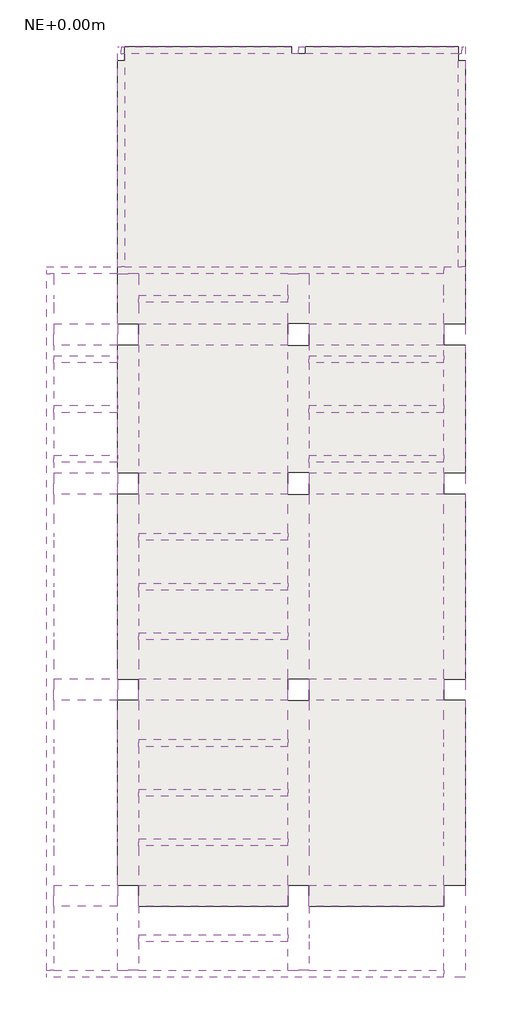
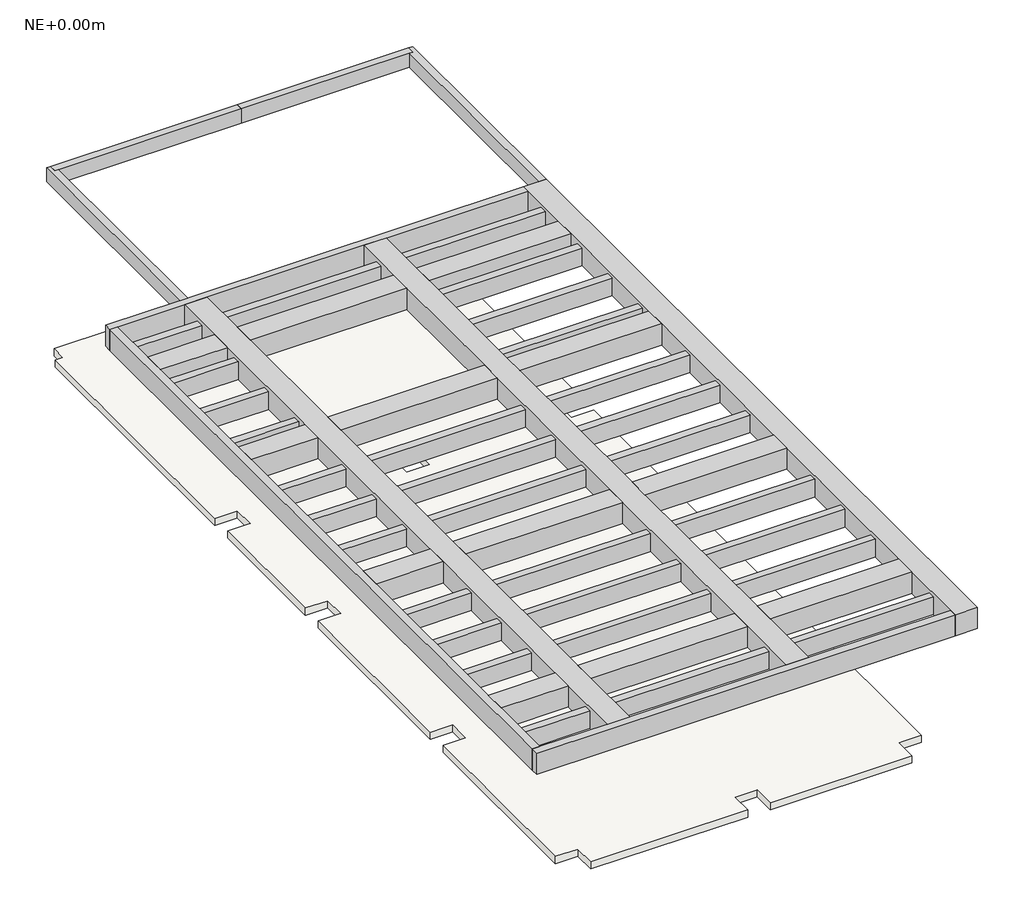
# One storey: 36 beams, 1 slab.
"""IFC4 building model written with IfcOpenShell, lengths in millimetres."""

from ifc_helpers import new_model, si_unit, frame, origin, place, context, project, spatial, polyline, outline, extrude, faceted_brep, element, save

model = new_model("IFC4")

# Units and contexts
model_context = context("Model", 3, world=origin())
ifc_project = project(units=[si_unit("LENGTHUNIT", "METRE", prefix="MILLI")], contexts=[model_context])

# Site, building, storey
site = spatial("IfcSite", under=ifc_project)
building = spatial("IfcBuilding", under=site)
storey = spatial("IfcBuildingStorey", under=building, Name="NE+0.00m", Elevation=0.0)

# Beams
placement = place(None, origin())
element("IfcBeam", 1, ObjectType="Hormigón-Viga rectangular : VConf (0.10x0.20m)", at=placement, inside=storey, context=model_context, shape_type="SweptSolid", body=[
    extrude(outline(polyline([(-947.6811082, 1862.8132138), (-1047.6811082, 1862.8132138), (-1047.6811082, 4962.8132138), (-997.6811082, 4962.8132138), (-997.6811082, 4862.8132138), (-947.6811082, 4862.8132138), (-947.6811082, 1862.8132138)])), frame((0.0, 0.0, 2400.0), z_axis=(0.0, 0.0, 1.0), x_axis=(1.0, 0.0, 0.0)), (0.0, 0.0, 1.0), 200.0),
])
element("IfcBeam", 2, ObjectType="Hormigón-Viga rectangular : VConf (0.10x0.20m)", at=placement, inside=storey, context=model_context, shape_type="SweptSolid", body=[
    extrude(outline(polyline([(3852.3188918, 1862.8132138), (3752.3188918, 1862.8132138), (3752.3188918, 4862.8132138), (3802.3188918, 4862.8132138), (3802.3188918, 4962.8132138), (3852.3188918, 4962.8132138), (3852.3188918, 1862.8132138)])), frame((0.0, 0.0, 2400.0), z_axis=(0.0, 0.0, 1.0), x_axis=(1.0, 0.0, 0.0)), (0.0, 0.0, 1.0), 200.0),
])
element("IfcBeam", 3, ObjectType="Hormigón-Viga rectangular : VConf (0.10x0.20m)", at=placement, inside=storey, context=model_context, shape_type="Brep", body=[
    faceted_brep([(3802.3188918, 4862.8132138, 2600.0), (3802.3188918, 4962.8132138, 2600.0), (1502.3188918, 4962.8132138, 2600.0), (1502.3188918, 4862.8132138, 2600.0), (3752.3188918, 4862.8132138, 2600.0), (3802.3188918, 4862.8132138, 2400.0), (1502.3188918, 4862.8132138, 2400.0), (3752.3188918, 4862.8132138, 2400.0), (3802.3188918, 4962.8132138, 2400.0), (1502.3188918, 4962.8132138, 2400.0)], [[[0, 1, 2, 3, 4]], [[5, 0, 4, 3, 6, 7]], [[8, 5, 7, 6, 9]], [[1, 8, 9, 2]], [[1, 0, 5, 8]], [[2, 9, 6, 3]]]),
])
element("IfcBeam", 4, ObjectType="Hormigón-Viga rectangular : VConf (0.10x0.20m)", at=placement, inside=storey, context=model_context, shape_type="Brep", body=[
    faceted_brep([(-997.6811082, 4962.8132138, 2600.0), (-997.6811082, 4862.8132138, 2600.0), (-947.6811082, 4862.8132138, 2600.0), (1502.3188918, 4862.8132138, 2600.0), (1502.3188918, 4962.8132138, 2600.0), (-997.6811082, 4962.8132138, 2400.0), (1502.3188918, 4962.8132138, 2400.0), (-997.6811082, 4862.8132138, 2400.0), (1502.3188918, 4862.8132138, 2400.0), (-947.6811082, 4862.8132138, 2400.0)], [[[0, 1, 2, 3, 4]], [[5, 0, 4, 6]], [[7, 5, 6, 8, 9]], [[1, 7, 9, 8, 3, 2]], [[1, 0, 5, 7]], [[3, 8, 6, 4]]]),
])
element("IfcBeam", 5, ObjectType="Hormigón-Viga rectangular : VA (0.30x0.30m)", at=placement, inside=storey, context=model_context, shape_type="Brep", body=[
    faceted_brep([(3552.3188918, -7137.1867862, 2600.0), (3552.3188918, -6837.1867862, 2600.0), (1652.3188918, -6837.1867862, 2600.0), (1652.3188918, -7137.1867862, 2600.0), (3552.3188918, -6837.1867862, 2550.0), (3552.3188918, -6837.1867862, 2300.0), (1652.3188918, -6837.1867862, 2300.0), (1652.3188918, -6837.1867862, 2550.0), (3552.3188918, -7137.1867862, 2300.0), (1652.3188918, -7137.1867862, 2300.0), (1652.3188918, -7137.1867862, 2550.0), (3552.3188918, -7137.1867862, 2550.0)], [[[0, 1, 2, 3]], [[2, 1, 4, 5, 6, 7]], [[5, 8, 9, 6]], [[0, 3, 10, 9, 8, 11]], [[1, 0, 11, 8, 5, 4]], [[3, 2, 7, 6, 9, 10]]]),
])
element("IfcBeam", 6, ObjectType="Hormigón-Viga rectangular : VA (0.30x0.30m)", at=placement, inside=storey, context=model_context, shape_type="Brep", body=[
    faceted_brep([(1352.3188918, -7137.1867862, 2600.0), (1352.3188918, -6837.1867862, 2600.0), (-747.6811082, -6837.1867862, 2600.0), (-747.6811082, -7137.1867862, 2600.0), (1352.3188918, -6837.1867862, 2550.0), (1352.3188918, -6837.1867862, 2300.0), (-747.6811082, -6837.1867862, 2300.0), (-747.6811082, -6837.1867862, 2550.0), (1352.3188918, -7137.1867862, 2300.0), (-747.6811082, -7137.1867862, 2300.0), (-747.6811082, -7137.1867862, 2550.0), (1352.3188918, -7137.1867862, 2550.0)], [[[0, 1, 2, 3]], [[2, 1, 4, 5, 6, 7]], [[5, 8, 9, 6]], [[0, 3, 10, 9, 8, 11]], [[1, 0, 11, 8, 5, 4]], [[3, 2, 7, 6, 9, 10]]]),
])
element("IfcBeam", 7, ObjectType="Hormigón-Viga rectangular : VA (0.30x0.30m)", at=placement, inside=storey, context=model_context, shape_type="Brep", body=[
    faceted_brep([(-1047.6811082, -7137.1867862, 2600.0), (-1047.6811082, -6837.1867862, 2600.0), (-1947.6811082, -6837.1867862, 2600.0), (-1947.6811082, -7137.1867862, 2600.0), (-1047.6811082, -6837.1867862, 2550.0), (-1047.6811082, -6837.1867862, 2300.0), (-1947.6811082, -6837.1867862, 2300.0), (-1947.6811082, -6837.1867862, 2550.0), (-1047.6811082, -7137.1867862, 2300.0), (-1947.6811082, -7137.1867862, 2300.0), (-1947.6811082, -7137.1867862, 2550.0), (-1047.6811082, -7137.1867862, 2550.0)], [[[0, 1, 2, 3]], [[2, 1, 4, 5, 6, 7]], [[5, 8, 9, 6]], [[0, 3, 10, 9, 8, 11]], [[1, 0, 11, 8, 5, 4]], [[3, 2, 7, 6, 9, 10]]]),
])
element("IfcBeam", 8, ObjectType="Hormigón-Viga rectangular : VA (0.30x0.30m)", at=placement, inside=storey, context=model_context, shape_type="Brep", body=[
    faceted_brep([(3552.3188918, -4237.1867862, 2600.0), (3552.3188918, -3937.1867862, 2600.0), (1652.3188918, -3937.1867862, 2600.0), (1652.3188918, -4237.1867862, 2600.0), (3552.3188918, -3937.1867862, 2550.0), (3552.3188918, -3937.1867862, 2300.0), (1652.3188918, -3937.1867862, 2300.0), (1652.3188918, -3937.1867862, 2550.0), (3552.3188918, -4237.1867862, 2300.0), (1652.3188918, -4237.1867862, 2300.0), (1652.3188918, -4237.1867862, 2550.0), (3552.3188918, -4237.1867862, 2550.0)], [[[0, 1, 2, 3]], [[2, 1, 4, 5, 6, 7]], [[5, 8, 9, 6]], [[0, 3, 10, 9, 8, 11]], [[1, 0, 11, 8, 5, 4]], [[3, 2, 7, 6, 9, 10]]]),
])
element("IfcBeam", 9, ObjectType="Hormigón-Viga rectangular : VA (0.30x0.30m)", at=placement, inside=storey, context=model_context, shape_type="Brep", body=[
    faceted_brep([(1352.3188918, -4237.1867862, 2600.0), (1352.3188918, -3937.1867862, 2600.0), (-747.6811082, -3937.1867862, 2600.0), (-747.6811082, -4237.1867862, 2600.0), (1352.3188918, -3937.1867862, 2550.0), (1352.3188918, -3937.1867862, 2300.0), (-747.6811082, -3937.1867862, 2300.0), (-747.6811082, -3937.1867862, 2550.0), (1352.3188918, -4237.1867862, 2300.0), (-747.6811082, -4237.1867862, 2300.0), (-747.6811082, -4237.1867862, 2550.0), (1352.3188918, -4237.1867862, 2550.0)], [[[0, 1, 2, 3]], [[2, 1, 4, 5, 6, 7]], [[5, 8, 9, 6]], [[0, 3, 10, 9, 8, 11]], [[1, 0, 11, 8, 5, 4]], [[3, 2, 7, 6, 9, 10]]]),
])
element("IfcBeam", 10, ObjectType="Hormigón-Viga rectangular : VA (0.30x0.30m)", at=placement, inside=storey, context=model_context, shape_type="Brep", body=[
    faceted_brep([(-1047.6811082, -4237.1867862, 2600.0), (-1047.6811082, -3937.1867862, 2600.0), (-1947.6811082, -3937.1867862, 2600.0), (-1947.6811082, -4237.1867862, 2600.0), (-1047.6811082, -3937.1867862, 2550.0), (-1047.6811082, -3937.1867862, 2300.0), (-1947.6811082, -3937.1867862, 2300.0), (-1947.6811082, -3937.1867862, 2550.0), (-1047.6811082, -4237.1867862, 2300.0), (-1947.6811082, -4237.1867862, 2300.0), (-1947.6811082, -4237.1867862, 2550.0), (-1047.6811082, -4237.1867862, 2550.0)], [[[0, 1, 2, 3]], [[2, 1, 4, 5, 6, 7]], [[5, 8, 9, 6]], [[0, 3, 10, 9, 8, 11]], [[1, 0, 11, 8, 5, 4]], [[3, 2, 7, 6, 9, 10]]]),
])
element("IfcBeam", 11, ObjectType="Hormigón-Viga rectangular : VA (0.30x0.30m)", at=placement, inside=storey, context=model_context, shape_type="Brep", body=[
    faceted_brep([(3552.3188918, -1337.1867862, 2600.0), (3552.3188918, -1037.1867862, 2600.0), (1652.3188918, -1037.1867862, 2600.0), (1652.3188918, -1337.1867862, 2600.0), (3552.3188918, -1037.1867862, 2550.0), (3552.3188918, -1037.1867862, 2300.0), (1652.3188918, -1037.1867862, 2300.0), (1652.3188918, -1037.1867862, 2550.0), (3552.3188918, -1337.1867862, 2300.0), (1652.3188918, -1337.1867862, 2300.0), (1652.3188918, -1337.1867862, 2550.0), (3552.3188918, -1337.1867862, 2550.0)], [[[0, 1, 2, 3]], [[2, 1, 4, 5, 6, 7]], [[5, 8, 9, 6]], [[0, 3, 10, 9, 8, 11]], [[1, 0, 11, 8, 5, 4]], [[3, 2, 7, 6, 9, 10]]]),
])
element("IfcBeam", 12, ObjectType="Hormigón-Viga rectangular : VA (0.30x0.30m)", at=placement, inside=storey, context=model_context, shape_type="Brep", body=[
    faceted_brep([(1352.3188918, -1337.1867862, 2600.0), (1352.3188918, -1037.1867862, 2600.0), (-747.6811082, -1037.1867862, 2600.0), (-747.6811082, -1337.1867862, 2600.0), (1352.3188918, -1037.1867862, 2300.0), (-747.6811082, -1037.1867862, 2300.0), (1352.3188918, -1337.1867862, 2300.0), (-747.6811082, -1337.1867862, 2300.0), (-747.6811082, -1337.1867862, 2550.0), (1352.3188918, -1337.1867862, 2550.0)], [[[0, 1, 2, 3]], [[1, 4, 5, 2]], [[4, 6, 7, 5]], [[0, 3, 8, 7, 6, 9]], [[1, 0, 9, 6, 4]], [[3, 2, 5, 7, 8]]]),
])
element("IfcBeam", 13, ObjectType="Hormigón-Viga rectangular : VA (0.30x0.30m)", at=placement, inside=storey, context=model_context, shape_type="Brep", body=[
    faceted_brep([(-1047.6811082, -1337.1867862, 2600.0), (-1047.6811082, -1037.1867862, 2600.0), (-1947.6811082, -1037.1867862, 2600.0), (-1947.6811082, -1337.1867862, 2600.0), (-1047.6811082, -1037.1867862, 2550.0), (-1047.6811082, -1037.1867862, 2300.0), (-1947.6811082, -1037.1867862, 2300.0), (-1947.6811082, -1037.1867862, 2550.0), (-1047.6811082, -1337.1867862, 2300.0), (-1947.6811082, -1337.1867862, 2300.0), (-1947.6811082, -1337.1867862, 2550.0), (-1047.6811082, -1337.1867862, 2550.0)], [[[0, 1, 2, 3]], [[2, 1, 4, 5, 6, 7]], [[5, 8, 9, 6]], [[0, 3, 10, 9, 8, 11]], [[1, 0, 11, 8, 5, 4]], [[3, 2, 7, 6, 9, 10]]]),
])
element("IfcBeam", 14, ObjectType="Hormigón-Viga rectangular : VA (0.30x0.30m)", at=placement, inside=storey, context=model_context, shape_type="Brep", body=[
    faceted_brep([(3552.3188918, 762.8132138, 2600.0), (3552.3188918, 1062.8132138, 2600.0), (1652.3188918, 1062.8132138, 2600.0), (1652.3188918, 762.8132138, 2600.0), (3552.3188918, 1062.8132138, 2550.0), (3552.3188918, 1062.8132138, 2300.0), (1652.3188918, 1062.8132138, 2300.0), (1652.3188918, 1062.8132138, 2550.0), (3552.3188918, 762.8132138, 2300.0), (1652.3188918, 762.8132138, 2300.0), (1652.3188918, 762.8132138, 2550.0), (3552.3188918, 762.8132138, 2550.0)], [[[0, 1, 2, 3]], [[2, 1, 4, 5, 6, 7]], [[5, 8, 9, 6]], [[0, 3, 10, 9, 8, 11]], [[1, 0, 11, 8, 5, 4]], [[3, 2, 7, 6, 9, 10]]]),
])
element("IfcBeam", 15, ObjectType="Hormigón-Viga rectangular : VA (0.30x0.30m)", at=placement, inside=storey, context=model_context, shape_type="Brep", body=[
    faceted_brep([(1352.3188918, 762.8132138, 2600.0), (1352.3188918, 1062.8132138, 2600.0), (-747.6811082, 1062.8132138, 2600.0), (-747.6811082, 762.8132138, 2600.0), (1352.3188918, 1062.8132138, 2550.0), (1352.3188918, 1062.8132138, 2300.0), (-747.6811082, 1062.8132138, 2300.0), (-747.6811082, 1062.8132138, 2550.0), (1352.3188918, 762.8132138, 2300.0), (-747.6811082, 762.8132138, 2300.0)], [[[0, 1, 2, 3]], [[2, 1, 4, 5, 6, 7]], [[5, 8, 9, 6]], [[8, 0, 3, 9]], [[1, 0, 8, 5, 4]], [[3, 2, 7, 6, 9]]]),
])
element("IfcBeam", 16, ObjectType="Hormigón-Viga rectangular : VA (0.30x0.30m)", at=placement, inside=storey, context=model_context, shape_type="Brep", body=[
    faceted_brep([(-1047.6811082, 762.8132138, 2600.0), (-1047.6811082, 1062.8132138, 2600.0), (-1947.6811082, 1062.8132138, 2600.0), (-1947.6811082, 762.8132138, 2600.0), (-1047.6811082, 1062.8132138, 2550.0), (-1047.6811082, 1062.8132138, 2300.0), (-1947.6811082, 1062.8132138, 2300.0), (-1947.6811082, 1062.8132138, 2550.0), (-1047.6811082, 762.8132138, 2300.0), (-1947.6811082, 762.8132138, 2300.0), (-1947.6811082, 762.8132138, 2550.0), (-1047.6811082, 762.8132138, 2550.0)], [[[0, 1, 2, 3]], [[2, 1, 4, 5, 6, 7]], [[5, 8, 9, 6]], [[0, 3, 10, 9, 8, 11]], [[1, 0, 11, 8, 5, 4]], [[3, 2, 7, 6, 9, 10]]]),
])
element("IfcBeam", 17, ObjectType="Hormigón-Viga rectangular : VA (0.30x0.30m)", at=placement, inside=storey, context=model_context, shape_type="Brep", body=[
    faceted_brep([(3852.3188918, 1862.8132138, 2600.0), (3752.3188918, 1862.8132138, 2600.0), (3552.3188918, 1862.8132138, 2600.0), (3552.3188918, 1762.8132138, 2600.0), (3552.3188918, 1062.8132138, 2600.0), (3552.3188918, 762.8132138, 2600.0), (3552.3188918, -1037.1867862, 2600.0), (3552.3188918, -1337.1867862, 2600.0), (3552.3188918, -3937.1867862, 2600.0), (3552.3188918, -4237.1867862, 2600.0), (3552.3188918, -6837.1867862, 2600.0), (3552.3188918, -7137.1867862, 2600.0), (3552.3188918, -8037.1867862, 2600.0), (3552.3188918, -8137.1867862, 2600.0), (3852.3188918, -8137.1867862, 2600.0), (3852.3188918, -7137.1867862, 2600.0), (3852.3188918, -6837.1867862, 2600.0), (3852.3188918, -4237.1867862, 2600.0), (3852.3188918, -3937.1867862, 2600.0), (3852.3188918, -1337.1867862, 2600.0), (3852.3188918, -1037.1867862, 2600.0), (3852.3188918, 762.8132138, 2600.0), (3852.3188918, 1062.8132138, 2600.0), (3852.3188918, 1862.8132138, 2300.0), (3852.3188918, 1862.8132138, 2400.0), (3852.3188918, -8137.1867862, 2300.0), (3852.3188918, -7137.1867862, 2300.0), (3852.3188918, -6837.1867862, 2300.0), (3852.3188918, -4237.1867862, 2300.0), (3852.3188918, -3937.1867862, 2300.0), (3852.3188918, -1337.1867862, 2300.0), (3852.3188918, -1037.1867862, 2300.0), (3852.3188918, 762.8132138, 2300.0), (3852.3188918, 1062.8132138, 2300.0), (3552.3188918, 1862.8132138, 2300.0), (3552.3188918, -8137.1867862, 2300.0), (3552.3188918, -8037.1867862, 2300.0), (3552.3188918, -7637.1867862, 2300.0), (3552.3188918, -7537.1867862, 2300.0), (3552.3188918, -7137.1867862, 2300.0), (3552.3188918, -6837.1867862, 2300.0), (3552.3188918, -6287.1867862, 2300.0), (3552.3188918, -6187.1867862, 2300.0), (3552.3188918, -5587.1867862, 2300.0), (3552.3188918, -5487.1867862, 2300.0), (3552.3188918, -4887.1867862, 2300.0), (3552.3188918, -4787.1867862, 2300.0), (3552.3188918, -4237.1867862, 2300.0), (3552.3188918, -3937.1867862, 2300.0), (3552.3188918, -3387.1867862, 2300.0), (3552.3188918, -3287.1867862, 2300.0), (3552.3188918, -2687.1867862, 2300.0), (3552.3188918, -2587.1867862, 2300.0), (3552.3188918, -1987.1867862, 2300.0), (3552.3188918, -1887.1867862, 2300.0), (3552.3188918, -1337.1867862, 2300.0), (3552.3188918, -1037.1867862, 2300.0), (3552.3188918, -887.1867862, 2300.0), (3552.3188918, -787.1867862, 2300.0), (3552.3188918, -187.1867862, 2300.0), (3552.3188918, -87.1867862, 2300.0), (3552.3188918, 512.8132138, 2300.0), (3552.3188918, 612.8132138, 2300.0), (3552.3188918, 762.8132138, 2300.0), (3552.3188918, 1062.8132138, 2300.0), (3552.3188918, 1362.8132138, 2300.0), (3552.3188918, 1462.8132138, 2300.0), (3552.3188918, 1762.8132138, 2300.0)], [[[0, 1, 2, 3, 4, 5, 6, 7, 8, 9, 10, 11, 12, 13, 14, 15, 16, 17, 18, 19, 20, 21, 22]], [[23, 24, 0, 22, 21, 20, 19, 18, 17, 16, 15, 14, 25, 26, 27, 28, 29, 30, 31, 32, 33]], [[34, 23, 33, 32, 31, 30, 29, 28, 27, 26, 25, 35, 36, 37, 38, 39, 40, 41, 42, 43, 44, 45, 46, 47, 48, 49, 50, 51, 52, 53, 54, 55, 56, 57, 58, 59, 60, 61, 62, 63, 64, 65, 66, 67]], [[2, 34, 67, 66, 65, 64, 63, 62, 61, 60, 59, 58, 57, 56, 55, 54, 53, 52, 51, 50, 49, 48, 47, 46, 45, 44, 43, 42, 41, 40, 39, 38, 37, 36, 35, 13, 12, 11, 10, 9, 8, 7, 6, 5, 4, 3]], [[2, 1, 0, 24, 23, 34]], [[14, 13, 35, 25]]]),
])
element("IfcBeam", 18, ObjectType="Hormigón-Viga rectangular : VA (0.30x0.30m)", at=placement, inside=storey, context=model_context, shape_type="Brep", body=[
    faceted_brep([(1652.3188918, 1762.8132138, 2600.0), (1352.3188918, 1762.8132138, 2600.0), (1352.3188918, 1062.8132138, 2600.0), (1352.3188918, 762.8132138, 2600.0), (1352.3188918, -1037.1867862, 2600.0), (1352.3188918, -1337.1867862, 2600.0), (1352.3188918, -3937.1867862, 2600.0), (1352.3188918, -4237.1867862, 2600.0), (1352.3188918, -6837.1867862, 2600.0), (1352.3188918, -7137.1867862, 2600.0), (1352.3188918, -8037.1867862, 2600.0), (1652.3188918, -8037.1867862, 2600.0), (1652.3188918, -7137.1867862, 2600.0), (1652.3188918, -6837.1867862, 2600.0), (1652.3188918, -4237.1867862, 2600.0), (1652.3188918, -3937.1867862, 2600.0), (1652.3188918, -1337.1867862, 2600.0), (1652.3188918, -1037.1867862, 2600.0), (1652.3188918, 762.8132138, 2600.0), (1652.3188918, 1062.8132138, 2600.0), (1352.3188918, 1762.8132138, 2300.0), (1352.3188918, 1462.8132138, 2300.0), (1352.3188918, 1362.8132138, 2300.0), (1352.3188918, 1062.8132138, 2300.0), (1352.3188918, 762.8132138, 2300.0), (1352.3188918, -1037.1867862, 2300.0), (1352.3188918, -1337.1867862, 2300.0), (1352.3188918, -1887.1867862, 2300.0), (1352.3188918, -1987.1867862, 2300.0), (1352.3188918, -2587.1867862, 2300.0), (1352.3188918, -2687.1867862, 2300.0), (1352.3188918, -3287.1867862, 2300.0), (1352.3188918, -3387.1867862, 2300.0), (1352.3188918, -3937.1867862, 2300.0), (1352.3188918, -4237.1867862, 2300.0), (1352.3188918, -4787.1867862, 2300.0), (1352.3188918, -4887.1867862, 2300.0), (1352.3188918, -5487.1867862, 2300.0), (1352.3188918, -5587.1867862, 2300.0), (1352.3188918, -6187.1867862, 2300.0), (1352.3188918, -6287.1867862, 2300.0), (1352.3188918, -6837.1867862, 2300.0), (1352.3188918, -7137.1867862, 2300.0), (1352.3188918, -7537.1867862, 2300.0), (1352.3188918, -7637.1867862, 2300.0), (1352.3188918, -8037.1867862, 2300.0), (1352.3188918, -8037.1867862, 2550.0), (1352.3188918, 1762.8132138, 2550.0), (1652.3188918, 1762.8132138, 2300.0), (1652.3188918, 1462.8132138, 2300.0), (1652.3188918, 1362.8132138, 2300.0), (1652.3188918, 1062.8132138, 2300.0), (1652.3188918, 762.8132138, 2300.0), (1652.3188918, 612.8132138, 2300.0), (1652.3188918, 512.8132138, 2300.0), (1652.3188918, -87.1867862, 2300.0), (1652.3188918, -187.1867862, 2300.0), (1652.3188918, -787.1867862, 2300.0), (1652.3188918, -887.1867862, 2300.0), (1652.3188918, -1037.1867862, 2300.0), (1652.3188918, -1337.1867862, 2300.0), (1652.3188918, -1887.1867862, 2300.0), (1652.3188918, -1987.1867862, 2300.0), (1652.3188918, -2587.1867862, 2300.0), (1652.3188918, -2687.1867862, 2300.0), (1652.3188918, -3287.1867862, 2300.0), (1652.3188918, -3387.1867862, 2300.0), (1652.3188918, -3937.1867862, 2300.0), (1652.3188918, -4237.1867862, 2300.0), (1652.3188918, -4787.1867862, 2300.0), (1652.3188918, -4887.1867862, 2300.0), (1652.3188918, -5487.1867862, 2300.0), (1652.3188918, -5587.1867862, 2300.0), (1652.3188918, -6187.1867862, 2300.0), (1652.3188918, -6287.1867862, 2300.0), (1652.3188918, -6837.1867862, 2300.0), (1652.3188918, -7137.1867862, 2300.0), (1652.3188918, -7537.1867862, 2300.0), (1652.3188918, -7637.1867862, 2300.0), (1652.3188918, -8037.1867862, 2300.0), (1652.3188918, 1762.8132138, 2550.0), (1652.3188918, -8037.1867862, 2550.0)], [[[0, 1, 2, 3, 4, 5, 6, 7, 8, 9, 10, 11, 12, 13, 14, 15, 16, 17, 18, 19]], [[20, 21, 22, 23, 24, 25, 26, 27, 28, 29, 30, 31, 32, 33, 34, 35, 36, 37, 38, 39, 40, 41, 42, 43, 44, 45, 46, 10, 9, 8, 7, 6, 5, 4, 3, 2, 1, 47]], [[20, 48, 49, 50, 51, 52, 53, 54, 55, 56, 57, 58, 59, 60, 61, 62, 63, 64, 65, 66, 67, 68, 69, 70, 71, 72, 73, 74, 75, 76, 77, 78, 79, 45, 44, 43, 42, 41, 40, 39, 38, 37, 36, 35, 34, 33, 32, 31, 30, 29, 28, 27, 26, 25, 24, 23, 22, 21]], [[79, 78, 77, 76, 75, 74, 73, 72, 71, 70, 69, 68, 67, 66, 65, 64, 63, 62, 61, 60, 59, 58, 57, 56, 55, 54, 53, 52, 51, 50, 49, 48, 80, 0, 19, 18, 17, 16, 15, 14, 13, 12, 11, 81]], [[1, 0, 80, 48, 20, 47]], [[11, 10, 46, 45, 79, 81]]]),
])
element("IfcBeam", 19, ObjectType="Hormigón-Viga rectangular : VA (0.30x0.30m)", at=placement, inside=storey, context=model_context, shape_type="Brep", body=[
    faceted_brep([(-747.6811082, 1762.8132138, 2600.0), (-1047.6811082, 1762.8132138, 2600.0), (-1047.6811082, 1062.8132138, 2600.0), (-1047.6811082, 762.8132138, 2600.0), (-1047.6811082, -1037.1867862, 2600.0), (-1047.6811082, -1337.1867862, 2600.0), (-1047.6811082, -3937.1867862, 2600.0), (-1047.6811082, -4237.1867862, 2600.0), (-1047.6811082, -6837.1867862, 2600.0), (-1047.6811082, -7137.1867862, 2600.0), (-1047.6811082, -8037.1867862, 2600.0), (-747.6811082, -8037.1867862, 2600.0), (-747.6811082, -7137.1867862, 2600.0), (-747.6811082, -6837.1867862, 2600.0), (-747.6811082, -4237.1867862, 2600.0), (-747.6811082, -3937.1867862, 2600.0), (-747.6811082, -1337.1867862, 2600.0), (-747.6811082, -1037.1867862, 2600.0), (-747.6811082, 762.8132138, 2600.0), (-747.6811082, 1062.8132138, 2600.0), (-1047.6811082, 1762.8132138, 2300.0), (-1047.6811082, 1462.8132138, 2300.0), (-1047.6811082, 1362.8132138, 2300.0), (-1047.6811082, 1062.8132138, 2300.0), (-1047.6811082, 762.8132138, 2300.0), (-1047.6811082, 612.8132138, 2300.0), (-1047.6811082, 512.8132138, 2300.0), (-1047.6811082, -87.1867862, 2300.0), (-1047.6811082, -187.1867862, 2300.0), (-1047.6811082, -787.1867862, 2300.0), (-1047.6811082, -887.1867862, 2300.0), (-1047.6811082, -1037.1867862, 2300.0), (-1047.6811082, -1337.1867862, 2300.0), (-1047.6811082, -1887.1867862, 2300.0), (-1047.6811082, -1987.1867862, 2300.0), (-1047.6811082, -2587.1867862, 2300.0), (-1047.6811082, -2687.1867862, 2300.0), (-1047.6811082, -3287.1867862, 2300.0), (-1047.6811082, -3387.1867862, 2300.0), (-1047.6811082, -3937.1867862, 2300.0), (-1047.6811082, -4237.1867862, 2300.0), (-1047.6811082, -4787.1867862, 2300.0), (-1047.6811082, -4887.1867862, 2300.0), (-1047.6811082, -5487.1867862, 2300.0), (-1047.6811082, -5587.1867862, 2300.0), (-1047.6811082, -6187.1867862, 2300.0), (-1047.6811082, -6287.1867862, 2300.0), (-1047.6811082, -6837.1867862, 2300.0), (-1047.6811082, -7137.1867862, 2300.0), (-1047.6811082, -7537.1867862, 2300.0), (-1047.6811082, -7637.1867862, 2300.0), (-1047.6811082, -8037.1867862, 2300.0), (-1047.6811082, -8037.1867862, 2550.0), (-1047.6811082, 1762.8132138, 2550.0), (-747.6811082, 1762.8132138, 2300.0), (-747.6811082, 1462.8132138, 2300.0), (-747.6811082, 1362.8132138, 2300.0), (-747.6811082, 1062.8132138, 2300.0), (-747.6811082, 762.8132138, 2300.0), (-747.6811082, -1037.1867862, 2300.0), (-747.6811082, -1337.1867862, 2300.0), (-747.6811082, -1887.1867862, 2300.0), (-747.6811082, -1987.1867862, 2300.0), (-747.6811082, -2587.1867862, 2300.0), (-747.6811082, -2687.1867862, 2300.0), (-747.6811082, -3287.1867862, 2300.0), (-747.6811082, -3387.1867862, 2300.0), (-747.6811082, -3937.1867862, 2300.0), (-747.6811082, -4237.1867862, 2300.0), (-747.6811082, -4787.1867862, 2300.0), (-747.6811082, -4887.1867862, 2300.0), (-747.6811082, -5487.1867862, 2300.0), (-747.6811082, -5587.1867862, 2300.0), (-747.6811082, -6187.1867862, 2300.0), (-747.6811082, -6287.1867862, 2300.0), (-747.6811082, -6837.1867862, 2300.0), (-747.6811082, -7137.1867862, 2300.0), (-747.6811082, -7537.1867862, 2300.0), (-747.6811082, -7637.1867862, 2300.0), (-747.6811082, -8037.1867862, 2300.0), (-747.6811082, 1762.8132138, 2550.0), (-747.6811082, -8037.1867862, 2550.0)], [[[0, 1, 2, 3, 4, 5, 6, 7, 8, 9, 10, 11, 12, 13, 14, 15, 16, 17, 18, 19]], [[20, 21, 22, 23, 24, 25, 26, 27, 28, 29, 30, 31, 32, 33, 34, 35, 36, 37, 38, 39, 40, 41, 42, 43, 44, 45, 46, 47, 48, 49, 50, 51, 52, 10, 9, 8, 7, 6, 5, 4, 3, 2, 1, 53]], [[20, 54, 55, 56, 57, 58, 59, 60, 61, 62, 63, 64, 65, 66, 67, 68, 69, 70, 71, 72, 73, 74, 75, 76, 77, 78, 79, 51, 50, 49, 48, 47, 46, 45, 44, 43, 42, 41, 40, 39, 38, 37, 36, 35, 34, 33, 32, 31, 30, 29, 28, 27, 26, 25, 24, 23, 22, 21]], [[79, 78, 77, 76, 75, 74, 73, 72, 71, 70, 69, 68, 67, 66, 65, 64, 63, 62, 61, 60, 59, 58, 57, 56, 55, 54, 80, 0, 19, 18, 17, 16, 15, 14, 13, 12, 11, 81]], [[1, 0, 80, 54, 20, 53]], [[11, 10, 52, 51, 79, 81]]]),
])
element("IfcBeam", 20, ObjectType="Hormigón-Viga rectangular : VB (0.10x0.30m)", at=placement, inside=storey, context=model_context, shape_type="Brep", body=[
    faceted_brep([(-2047.6811082, 1862.8132138, 2600.0), (-2047.6811082, 1762.8132138, 2600.0), (-1947.6811082, 1762.8132138, 2600.0), (-1047.6811082, 1762.8132138, 2600.0), (-747.6811082, 1762.8132138, 2600.0), (1352.3188918, 1762.8132138, 2600.0), (1652.3188918, 1762.8132138, 2600.0), (3552.3188918, 1762.8132138, 2600.0), (3552.3188918, 1862.8132138, 2600.0), (-947.6811082, 1862.8132138, 2600.0), (-1047.6811082, 1862.8132138, 2600.0), (-2047.6811082, 1862.8132138, 2300.0), (3552.3188918, 1862.8132138, 2300.0), (-2047.6811082, 1762.8132138, 2300.0), (3552.3188918, 1762.8132138, 2300.0), (1652.3188918, 1762.8132138, 2300.0), (1352.3188918, 1762.8132138, 2300.0), (-747.6811082, 1762.8132138, 2300.0), (-1047.6811082, 1762.8132138, 2300.0), (-1947.6811082, 1762.8132138, 2300.0), (3552.3188918, 1762.8132138, 2550.0)], [[[0, 1, 2, 3, 4, 5, 6, 7, 8, 9, 10]], [[11, 0, 10, 9, 8, 12]], [[13, 11, 12, 14, 15, 16, 17, 18, 19]], [[1, 13, 19, 18, 17, 16, 15, 14, 20, 7, 6, 5, 4, 3, 2]], [[1, 0, 11, 13]], [[8, 7, 20, 14, 12]]]),
])
element("IfcBeam", 21, ObjectType="Hormigón-Viga rectangular : VB (0.10x0.30m)", at=placement, inside=storey, context=model_context, shape_type="Brep", body=[
    faceted_brep([(-2047.6811082, -8037.1867862, 2600.0), (-2047.6811082, -8137.1867862, 2600.0), (3552.3188918, -8137.1867862, 2600.0), (3552.3188918, -8037.1867862, 2600.0), (1652.3188918, -8037.1867862, 2600.0), (1352.3188918, -8037.1867862, 2600.0), (-747.6811082, -8037.1867862, 2600.0), (-1047.6811082, -8037.1867862, 2600.0), (-1947.6811082, -8037.1867862, 2600.0), (-2047.6811082, -8037.1867862, 2300.0), (3552.3188918, -8037.1867862, 2550.0), (3552.3188918, -8037.1867862, 2300.0), (1652.3188918, -8037.1867862, 2300.0), (1352.3188918, -8037.1867862, 2300.0), (-747.6811082, -8037.1867862, 2300.0), (-1047.6811082, -8037.1867862, 2300.0), (-1947.6811082, -8037.1867862, 2300.0), (-2047.6811082, -8137.1867862, 2300.0), (3552.3188918, -8137.1867862, 2300.0)], [[[0, 1, 2, 3, 4, 5, 6, 7, 8]], [[9, 0, 8, 7, 6, 5, 4, 3, 10, 11, 12, 13, 14, 15, 16]], [[17, 9, 16, 15, 14, 13, 12, 11, 18]], [[1, 17, 18, 2]], [[1, 0, 9, 17]], [[3, 2, 18, 11, 10]]]),
])
element("IfcBeam", 22, ObjectType="Hormigón-Viga rectangular : VB (0.10x0.30m)", at=placement, inside=storey, context=model_context, shape_type="Brep", body=[
    faceted_brep([(-1947.6811082, 1762.8132138, 2600.0), (-2047.6811082, 1762.8132138, 2600.0), (-2047.6811082, -8037.1867862, 2600.0), (-1947.6811082, -8037.1867862, 2600.0), (-1947.6811082, -7137.1867862, 2600.0), (-1947.6811082, -6837.1867862, 2600.0), (-1947.6811082, -4237.1867862, 2600.0), (-1947.6811082, -3937.1867862, 2600.0), (-1947.6811082, -1337.1867862, 2600.0), (-1947.6811082, -1037.1867862, 2600.0), (-1947.6811082, 762.8132138, 2600.0), (-1947.6811082, 1062.8132138, 2600.0), (-2047.6811082, 1762.8132138, 2300.0), (-2047.6811082, -8037.1867862, 2300.0), (-1947.6811082, 1762.8132138, 2300.0), (-1947.6811082, 1462.8132138, 2300.0), (-1947.6811082, 1362.8132138, 2300.0), (-1947.6811082, 1062.8132138, 2300.0), (-1947.6811082, 762.8132138, 2300.0), (-1947.6811082, 612.8132138, 2300.0), (-1947.6811082, 512.8132138, 2300.0), (-1947.6811082, -87.1867862, 2300.0), (-1947.6811082, -187.1867862, 2300.0), (-1947.6811082, -787.1867862, 2300.0), (-1947.6811082, -887.1867862, 2300.0), (-1947.6811082, -1037.1867862, 2300.0), (-1947.6811082, -1337.1867862, 2300.0), (-1947.6811082, -1887.1867862, 2300.0), (-1947.6811082, -1987.1867862, 2300.0), (-1947.6811082, -2587.1867862, 2300.0), (-1947.6811082, -2687.1867862, 2300.0), (-1947.6811082, -3287.1867862, 2300.0), (-1947.6811082, -3387.1867862, 2300.0), (-1947.6811082, -3937.1867862, 2300.0), (-1947.6811082, -4237.1867862, 2300.0), (-1947.6811082, -4787.1867862, 2300.0), (-1947.6811082, -4887.1867862, 2300.0), (-1947.6811082, -5487.1867862, 2300.0), (-1947.6811082, -5587.1867862, 2300.0), (-1947.6811082, -6187.1867862, 2300.0), (-1947.6811082, -6287.1867862, 2300.0), (-1947.6811082, -6837.1867862, 2300.0), (-1947.6811082, -7137.1867862, 2300.0), (-1947.6811082, -7537.1867862, 2300.0), (-1947.6811082, -7637.1867862, 2300.0), (-1947.6811082, -8037.1867862, 2300.0), (-1947.6811082, 1762.8132138, 2550.0), (-1947.6811082, -8037.1867862, 2550.0)], [[[0, 1, 2, 3, 4, 5, 6, 7, 8, 9, 10, 11]], [[1, 12, 13, 2]], [[12, 14, 15, 16, 17, 18, 19, 20, 21, 22, 23, 24, 25, 26, 27, 28, 29, 30, 31, 32, 33, 34, 35, 36, 37, 38, 39, 40, 41, 42, 43, 44, 45, 13]], [[14, 46, 0, 11, 10, 9, 8, 7, 6, 5, 4, 3, 47, 45, 44, 43, 42, 41, 40, 39, 38, 37, 36, 35, 34, 33, 32, 31, 30, 29, 28, 27, 26, 25, 24, 23, 22, 21, 20, 19, 18, 17, 16, 15]], [[1, 0, 46, 14, 12]], [[3, 2, 13, 45, 47]]]),
])
element("IfcBeam", 23, ObjectType="Hormigón-Viga rectangular : VT (0.10x0.30m)", at=placement, inside=storey, context=model_context, shape_type="SweptSolid", body=[
    extrude(outline(polyline([(3552.3188918, -7537.1867862), (3552.3188918, -7637.1867862), (1652.3188918, -7637.1867862), (1652.3188918, -7537.1867862), (3552.3188918, -7537.1867862)])), frame((0.0, 0.0, 2300.0), z_axis=(0.0, 0.0, 1.0), x_axis=(1.0, 0.0, 0.0)), (0.0, 0.0, 1.0), 250.0),
    extrude(outline(polyline([(-1947.6811082, -7637.1867862), (-1947.6811082, -7537.1867862), (-1047.6811082, -7537.1867862), (-1047.6811082, -7637.1867862), (-1947.6811082, -7637.1867862)])), frame((0.0, 0.0, 2300.0), z_axis=(0.0, 0.0, 1.0), x_axis=(1.0, 0.0, 0.0)), (0.0, 0.0, 1.0), 250.0),
    extrude(outline(polyline([(1352.3188918, -7537.1867862), (1352.3188918, -7637.1867862), (-747.6811082, -7637.1867862), (-747.6811082, -7537.1867862), (1352.3188918, -7537.1867862)])), frame((0.0, 0.0, 2300.0), z_axis=(0.0, 0.0, 1.0), x_axis=(1.0, 0.0, 0.0)), (0.0, 0.0, 1.0), 250.0),
])
element("IfcBeam", 24, ObjectType="Hormigón-Viga rectangular : VT (0.10x0.30m)", at=placement, inside=storey, context=model_context, shape_type="SweptSolid", body=[
    extrude(outline(polyline([(3552.3188918, -4787.1867862), (3552.3188918, -4887.1867862), (1652.3188918, -4887.1867862), (1652.3188918, -4787.1867862), (3552.3188918, -4787.1867862)])), frame((0.0, 0.0, 2300.0), z_axis=(0.0, 0.0, 1.0), x_axis=(1.0, 0.0, 0.0)), (0.0, 0.0, 1.0), 250.0),
    extrude(outline(polyline([(-1947.6811082, -4887.1867862), (-1947.6811082, -4787.1867862), (-1047.6811082, -4787.1867862), (-1047.6811082, -4887.1867862), (-1947.6811082, -4887.1867862)])), frame((0.0, 0.0, 2300.0), z_axis=(0.0, 0.0, 1.0), x_axis=(1.0, 0.0, 0.0)), (0.0, 0.0, 1.0), 250.0),
    extrude(outline(polyline([(1352.3188918, -4787.1867862), (1352.3188918, -4887.1867862), (-747.6811082, -4887.1867862), (-747.6811082, -4787.1867862), (1352.3188918, -4787.1867862)])), frame((0.0, 0.0, 2300.0), z_axis=(0.0, 0.0, 1.0), x_axis=(1.0, 0.0, 0.0)), (0.0, 0.0, 1.0), 250.0),
])
element("IfcBeam", 25, ObjectType="Hormigón-Viga rectangular : VT (0.10x0.30m)", at=placement, inside=storey, context=model_context, shape_type="SweptSolid", body=[
    extrude(outline(polyline([(3552.3188918, -5487.1867862), (3552.3188918, -5587.1867862), (1652.3188918, -5587.1867862), (1652.3188918, -5487.1867862), (3552.3188918, -5487.1867862)])), frame((0.0, 0.0, 2300.0), z_axis=(0.0, 0.0, 1.0), x_axis=(1.0, 0.0, 0.0)), (0.0, 0.0, 1.0), 250.0),
    extrude(outline(polyline([(-1947.6811082, -5587.1867862), (-1947.6811082, -5487.1867862), (-1047.6811082, -5487.1867862), (-1047.6811082, -5587.1867862), (-1947.6811082, -5587.1867862)])), frame((0.0, 0.0, 2300.0), z_axis=(0.0, 0.0, 1.0), x_axis=(1.0, 0.0, 0.0)), (0.0, 0.0, 1.0), 250.0),
    extrude(outline(polyline([(1352.3188918, -5487.1867862), (1352.3188918, -5587.1867862), (-747.6811082, -5587.1867862), (-747.6811082, -5487.1867862), (1352.3188918, -5487.1867862)])), frame((0.0, 0.0, 2300.0), z_axis=(0.0, 0.0, 1.0), x_axis=(1.0, 0.0, 0.0)), (0.0, 0.0, 1.0), 250.0),
])
element("IfcBeam", 26, ObjectType="Hormigón-Viga rectangular : VT (0.10x0.30m)", at=placement, inside=storey, context=model_context, shape_type="SweptSolid", body=[
    extrude(outline(polyline([(3552.3188918, -6187.1867862), (3552.3188918, -6287.1867862), (1652.3188918, -6287.1867862), (1652.3188918, -6187.1867862), (3552.3188918, -6187.1867862)])), frame((0.0, 0.0, 2300.0), z_axis=(0.0, 0.0, 1.0), x_axis=(1.0, 0.0, 0.0)), (0.0, 0.0, 1.0), 250.0),
    extrude(outline(polyline([(-1947.6811082, -6287.1867862), (-1947.6811082, -6187.1867862), (-1047.6811082, -6187.1867862), (-1047.6811082, -6287.1867862), (-1947.6811082, -6287.1867862)])), frame((0.0, 0.0, 2300.0), z_axis=(0.0, 0.0, 1.0), x_axis=(1.0, 0.0, 0.0)), (0.0, 0.0, 1.0), 250.0),
    extrude(outline(polyline([(1352.3188918, -6187.1867862), (1352.3188918, -6287.1867862), (-747.6811082, -6287.1867862), (-747.6811082, -6187.1867862), (1352.3188918, -6187.1867862)])), frame((0.0, 0.0, 2300.0), z_axis=(0.0, 0.0, 1.0), x_axis=(1.0, 0.0, 0.0)), (0.0, 0.0, 1.0), 250.0),
])
element("IfcBeam", 27, ObjectType="Hormigón-Viga rectangular : VT (0.10x0.30m)", at=placement, inside=storey, context=model_context, shape_type="SweptSolid", body=[
    extrude(outline(polyline([(3552.3188918, -1887.1867862), (3552.3188918, -1987.1867862), (1652.3188918, -1987.1867862), (1652.3188918, -1887.1867862), (3552.3188918, -1887.1867862)])), frame((0.0, 0.0, 2300.0), z_axis=(0.0, 0.0, 1.0), x_axis=(1.0, 0.0, 0.0)), (0.0, 0.0, 1.0), 250.0),
    extrude(outline(polyline([(-1947.6811082, -1987.1867862), (-1947.6811082, -1887.1867862), (-1047.6811082, -1887.1867862), (-1047.6811082, -1987.1867862), (-1947.6811082, -1987.1867862)])), frame((0.0, 0.0, 2300.0), z_axis=(0.0, 0.0, 1.0), x_axis=(1.0, 0.0, 0.0)), (0.0, 0.0, 1.0), 250.0),
    extrude(outline(polyline([(1352.3188918, -1887.1867862), (1352.3188918, -1987.1867862), (-747.6811082, -1987.1867862), (-747.6811082, -1887.1867862), (1352.3188918, -1887.1867862)])), frame((0.0, 0.0, 2300.0), z_axis=(0.0, 0.0, 1.0), x_axis=(1.0, 0.0, 0.0)), (0.0, 0.0, 1.0), 250.0),
])
element("IfcBeam", 28, ObjectType="Hormigón-Viga rectangular : VT (0.10x0.30m)", at=placement, inside=storey, context=model_context, shape_type="SweptSolid", body=[
    extrude(outline(polyline([(3552.3188918, -2587.1867862), (3552.3188918, -2687.1867862), (1652.3188918, -2687.1867862), (1652.3188918, -2587.1867862), (3552.3188918, -2587.1867862)])), frame((0.0, 0.0, 2300.0), z_axis=(0.0, 0.0, 1.0), x_axis=(1.0, 0.0, 0.0)), (0.0, 0.0, 1.0), 250.0),
    extrude(outline(polyline([(-1947.6811082, -2687.1867862), (-1947.6811082, -2587.1867862), (-1047.6811082, -2587.1867862), (-1047.6811082, -2687.1867862), (-1947.6811082, -2687.1867862)])), frame((0.0, 0.0, 2300.0), z_axis=(0.0, 0.0, 1.0), x_axis=(1.0, 0.0, 0.0)), (0.0, 0.0, 1.0), 250.0),
    extrude(outline(polyline([(1352.3188918, -2587.1867862), (1352.3188918, -2687.1867862), (-747.6811082, -2687.1867862), (-747.6811082, -2587.1867862), (1352.3188918, -2587.1867862)])), frame((0.0, 0.0, 2300.0), z_axis=(0.0, 0.0, 1.0), x_axis=(1.0, 0.0, 0.0)), (0.0, 0.0, 1.0), 250.0),
])
element("IfcBeam", 29, ObjectType="Hormigón-Viga rectangular : VT (0.10x0.30m)", at=placement, inside=storey, context=model_context, shape_type="SweptSolid", body=[
    extrude(outline(polyline([(3552.3188918, -3287.1867862), (3552.3188918, -3387.1867862), (1652.3188918, -3387.1867862), (1652.3188918, -3287.1867862), (3552.3188918, -3287.1867862)])), frame((0.0, 0.0, 2300.0), z_axis=(0.0, 0.0, 1.0), x_axis=(1.0, 0.0, 0.0)), (0.0, 0.0, 1.0), 250.0),
    extrude(outline(polyline([(-1947.6811082, -3387.1867862), (-1947.6811082, -3287.1867862), (-1047.6811082, -3287.1867862), (-1047.6811082, -3387.1867862), (-1947.6811082, -3387.1867862)])), frame((0.0, 0.0, 2300.0), z_axis=(0.0, 0.0, 1.0), x_axis=(1.0, 0.0, 0.0)), (0.0, 0.0, 1.0), 250.0),
    extrude(outline(polyline([(1352.3188918, -3287.1867862), (1352.3188918, -3387.1867862), (-747.6811082, -3387.1867862), (-747.6811082, -3287.1867862), (1352.3188918, -3287.1867862)])), frame((0.0, 0.0, 2300.0), z_axis=(0.0, 0.0, 1.0), x_axis=(1.0, 0.0, 0.0)), (0.0, 0.0, 1.0), 250.0),
])
element("IfcBeam", 30, ObjectType="Hormigón-Viga rectangular : VT (0.10x0.30m)", at=placement, inside=storey, context=model_context, shape_type="SweptSolid", body=[
    extrude(outline(polyline([(3552.3188918, 612.8132138), (3552.3188918, 512.8132138), (1652.3188918, 512.8132138), (1652.3188918, 612.8132138), (3552.3188918, 612.8132138)])), frame((0.0, 0.0, 2300.0), z_axis=(0.0, 0.0, 1.0), x_axis=(1.0, 0.0, 0.0)), (0.0, 0.0, 1.0), 250.0),
])
element("IfcBeam", 31, ObjectType="Hormigón-Viga rectangular : VT (0.10x0.30m)", at=placement, inside=storey, context=model_context, shape_type="SweptSolid", body=[
    extrude(outline(polyline([(3552.3188918, -87.1867862), (3552.3188918, -187.1867862), (1652.3188918, -187.1867862), (1652.3188918, -87.1867862), (3552.3188918, -87.1867862)])), frame((0.0, 0.0, 2300.0), z_axis=(0.0, 0.0, 1.0), x_axis=(1.0, 0.0, 0.0)), (0.0, 0.0, 1.0), 250.0),
])
element("IfcBeam", 32, ObjectType="Hormigón-Viga rectangular : VT (0.10x0.30m)", at=placement, inside=storey, context=model_context, shape_type="SweptSolid", body=[
    extrude(outline(polyline([(3552.3188918, -787.1867862), (3552.3188918, -887.1867862), (1652.3188918, -887.1867862), (1652.3188918, -787.1867862), (3552.3188918, -787.1867862)])), frame((0.0, 0.0, 2300.0), z_axis=(0.0, 0.0, 1.0), x_axis=(1.0, 0.0, 0.0)), (0.0, 0.0, 1.0), 250.0),
])
element("IfcBeam", 33, ObjectType="Hormigón-Viga rectangular : VT (0.10x0.30m)", at=placement, inside=storey, context=model_context, shape_type="SweptSolid", body=[
    extrude(outline(polyline([(-1047.6811082, 612.8132138), (-1047.6811082, 512.8132138), (-1947.6811082, 512.8132138), (-1947.6811082, 612.8132138), (-1047.6811082, 612.8132138)])), frame((0.0, 0.0, 2300.0), z_axis=(0.0, 0.0, 1.0), x_axis=(1.0, 0.0, 0.0)), (0.0, 0.0, 1.0), 250.0),
])
element("IfcBeam", 34, ObjectType="Hormigón-Viga rectangular : VT (0.10x0.30m)", at=placement, inside=storey, context=model_context, shape_type="SweptSolid", body=[
    extrude(outline(polyline([(-1047.6811082, -87.1867862), (-1047.6811082, -187.1867862), (-1947.6811082, -187.1867862), (-1947.6811082, -87.1867862), (-1047.6811082, -87.1867862)])), frame((0.0, 0.0, 2300.0), z_axis=(0.0, 0.0, 1.0), x_axis=(1.0, 0.0, 0.0)), (0.0, 0.0, 1.0), 250.0),
])
element("IfcBeam", 35, ObjectType="Hormigón-Viga rectangular : VT (0.10x0.30m)", at=placement, inside=storey, context=model_context, shape_type="SweptSolid", body=[
    extrude(outline(polyline([(-1047.6811082, -787.1867862), (-1047.6811082, -887.1867862), (-1947.6811082, -887.1867862), (-1947.6811082, -787.1867862), (-1047.6811082, -787.1867862)])), frame((0.0, 0.0, 2300.0), z_axis=(0.0, 0.0, 1.0), x_axis=(1.0, 0.0, 0.0)), (0.0, 0.0, 1.0), 250.0),
])
element("IfcBeam", 36, ObjectType="Hormigón-Viga rectangular : VT (0.10x0.30m)", at=placement, inside=storey, context=model_context, shape_type="SweptSolid", body=[
    extrude(outline(polyline([(3552.3188918, 1462.8132138), (3552.3188918, 1362.8132138), (1652.3188918, 1362.8132138), (1652.3188918, 1462.8132138), (3552.3188918, 1462.8132138)])), frame((0.0, 0.0, 2300.0), z_axis=(0.0, 0.0, 1.0), x_axis=(1.0, 0.0, 0.0)), (0.0, 0.0, 1.0), 250.0),
    extrude(outline(polyline([(-1947.6811082, 1362.8132138), (-1947.6811082, 1462.8132138), (-1047.6811082, 1462.8132138), (-1047.6811082, 1362.8132138), (-1947.6811082, 1362.8132138)])), frame((0.0, 0.0, 2300.0), z_axis=(0.0, 0.0, 1.0), x_axis=(1.0, 0.0, 0.0)), (0.0, 0.0, 1.0), 250.0),
    extrude(outline(polyline([(1352.3188918, 1462.8132138), (1352.3188918, 1362.8132138), (-747.6811082, 1362.8132138), (-747.6811082, 1462.8132138), (1352.3188918, 1462.8132138)])), frame((0.0, 0.0, 2300.0), z_axis=(0.0, 0.0, 1.0), x_axis=(1.0, 0.0, 0.0)), (0.0, 0.0, 1.0), 250.0),
])

# Slab
element("IfcSlab", 37, ObjectType="Contrapiso e=10cm", at=placement, inside=storey, context=model_context, shape_type="SweptSolid", body=[
    extrude(outline(polyline([(1402.3188918, 4962.8132138), (1402.3188918, 4862.8132138), (1602.3188918, 4862.8132138), (1602.3188918, 4962.8132138), (3752.3188918, 4962.8132138), (3752.3188918, 4762.8132138), (3852.3188918, 4762.8132138), (3852.3188918, 1062.8132138), (3552.3188918, 1062.8132138), (3552.3188918, 762.8132138), (3852.3188918, 762.8132138), (3852.3188918, -1037.1867862), (3552.3188918, -1037.1867862), (3552.3188918, -1337.1867862), (3852.3188918, -1337.1867862), (3852.3188918, -3937.1867862), (3552.3188918, -3937.1867862), (3552.3188918, -4237.1867862), (3852.3188918, -4237.1867862), (3852.3188918, -6837.1867862), (3552.3188918, -6837.1867862), (3552.3188918, -7137.1867862), (1652.3188918, -7137.1867862), (1652.3188918, -6837.1867862), (1352.3188918, -6837.1867862), (1352.3188918, -7137.1867862), (-747.6811082, -7137.1867862), (-747.6811082, -6837.1867862), (-1047.6811082, -6837.1867862), (-1047.6811082, -4237.1867862), (-747.6811082, -4237.1867862), (-747.6811082, -3937.1867862), (-1047.6811082, -3937.1867862), (-1047.6811082, -1337.1867862), (-747.6811082, -1337.1867862), (-747.6811082, -1037.1867862), (-1047.6811082, -1037.1867862), (-1047.6811082, 762.8132138), (-747.6811082, 762.8132138), (-747.6811082, 1062.8132138), (-1047.6811082, 1062.8132138), (-1047.6811082, 4762.8132138), (-947.6811082, 4762.8132138), (-947.6811082, 4962.8132138), (1402.3188918, 4962.8132138)]), holes=[polyline([(1652.3188918, 1062.8132138), (1352.3188918, 1062.8132138), (1352.3188918, 762.8132138), (1652.3188918, 762.8132138), (1652.3188918, 1062.8132138)]), polyline([(1652.3188918, -1037.1867862), (1352.3188918, -1037.1867862), (1352.3188918, -1337.1867862), (1652.3188918, -1337.1867862), (1652.3188918, -1037.1867862)]), polyline([(1652.3188918, -3937.1867862), (1352.3188918, -3937.1867862), (1352.3188918, -4237.1867862), (1652.3188918, -4237.1867862), (1652.3188918, -3937.1867862)])]), frame((0.0, 0.0, -100.0), z_axis=(0.0, 0.0, 1.0), x_axis=(1.0, 0.0, 0.0)), (0.0, 0.0, 1.0), 100.0),
])

save(model, "model.ifc")
